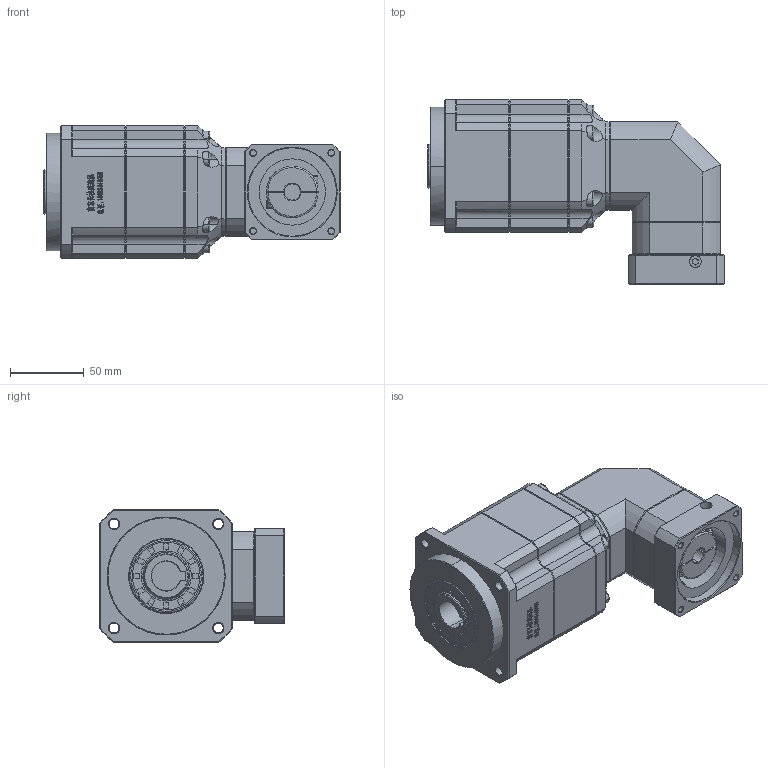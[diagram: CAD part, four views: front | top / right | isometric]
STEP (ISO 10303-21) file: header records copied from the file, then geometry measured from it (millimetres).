
FILE_DESCRIPTION (( 'STEP AP214' ), '1' );
FILE_NAME ('ZPBR090-K20-L3-P1-11-60-75-M5.step', '2024-06-07T18:42:08', ( 'Windows 蚚誧' ), ( 'Organization' ), 'SwSTEP 2.0', 'SolidWorks 2016', '' );
FILE_SCHEMA (( 'AUTOMOTIVE_DESIGN' ));
Length unit declared in the file: millimetre
Products named in the file (1): ZPBR090-K20-L3-P1-11-60-75-M5
Bounding box: 201 x 125 x 90 mm (x, y, z)
Surface area: 100948.9 mm2 (no closed solid volume)
Topology: 0 solids, 30 shells, 2042 faces, 5338 edges, 3381 vertices
Faces by surface type: plane 1112, bspline 366, cone 273, cylinder 266, torus 25
Entity records: 95142 total; most frequent: CARTESIAN_POINT 46062, ORIENTED_EDGE 10640, DIRECTION 7241, EDGE_CURVE 5338, VERTEX_POINT 3381, VECTOR 2541, LINE 2541, AXIS2_PLACEMENT_3D 2350
